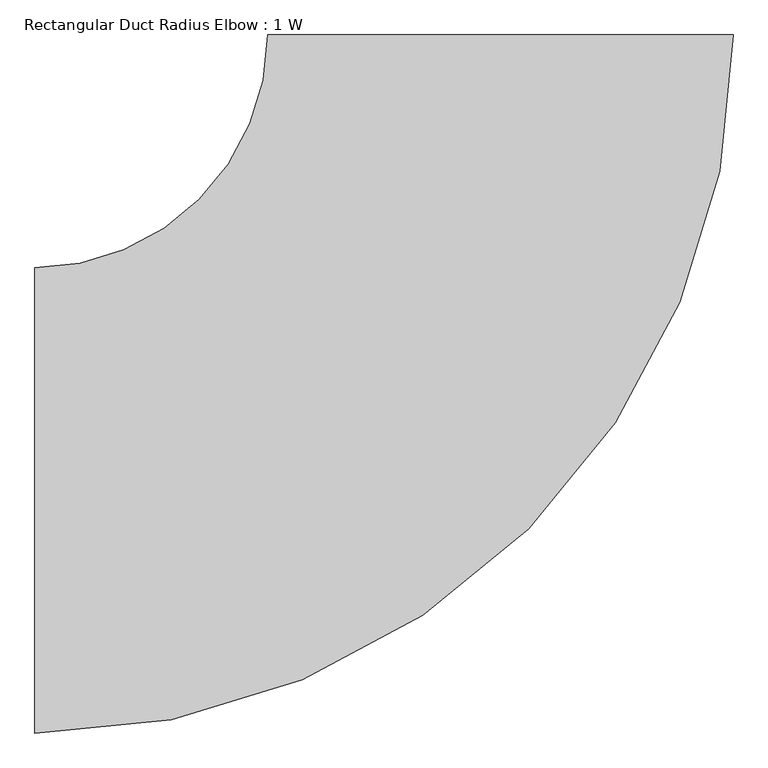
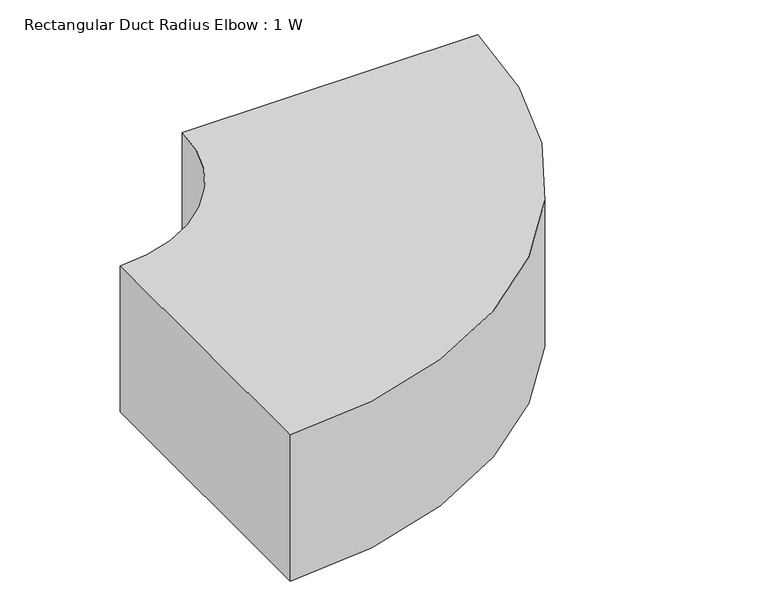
"""IFC4 building model written with IfcOpenShell, lengths in millimetres: duct fitting geometry, Rectangular Duct Radius Elbow : 1 W."""

from ifc_helpers import new_model, si_unit, point, frame, frame_2d, origin, place, context, project, spatial, polyline, circle_curve, trimmed, segment, composite_curve, outline, extrude, source, transform, mapped, element, save


def rectangular_duct_radius_elbow_1_w_6f893059(model_context):
    return source(origin(), model_context, "Body", "SweptSolid", [
        extrude(outline(composite_curve([segment(trimmed(circle_curve(frame_2d((-1066.8, 1066.8)), 1600.2), [point((533.4, 1066.8))], [point((-1066.8, -533.4))], False, "CARTESIAN"), True, "CONTINUOUS"), segment(polyline([(-1066.8, -533.4), (-1066.8, 533.4)]), True, "CONTINUOUS"), segment(trimmed(circle_curve(frame_2d((-1066.8, 1066.8)), 533.4), [point((-1066.8, 533.4))], [point((-533.4, 1066.8))], True, "CARTESIAN"), True, "CONTINUOUS"), segment(polyline([(-533.4, 1066.8), (533.4, 1066.8)]), True, "CONTINUOUS")], self_intersect=False)), frame((0.0, 0.0, -279.4), z_axis=(0.0, 0.0, 1.0), x_axis=(1.0, 0.0, 0.0)), (0.0, 0.0, 1.0), 558.8),
        extrude(outline(composite_curve([segment(trimmed(circle_curve(frame_2d((-1066.8, 1066.8)), 1600.2), [point((533.4, 1066.8))], [point((-1066.8, -533.4))], False, "CARTESIAN"), True, "CONTINUOUS"), segment(polyline([(-1066.8, -533.4), (-1066.8, 533.4)]), True, "CONTINUOUS"), segment(trimmed(circle_curve(frame_2d((-1066.8, 1066.8)), 533.4), [point((-1066.8, 533.4))], [point((-533.4, 1066.8))], True, "CARTESIAN"), True, "CONTINUOUS"), segment(polyline([(-533.4, 1066.8), (533.4, 1066.8)]), True, "CONTINUOUS")], self_intersect=False)), frame((0.0, 0.0, -279.4), z_axis=(0.0, 0.0, 1.0), x_axis=(1.0, 0.0, 0.0)), (0.0, 0.0, 1.0), 558.8),
        extrude(outline(composite_curve([segment(trimmed(circle_curve(frame_2d((-1066.8, 1066.8)), 1600.2), [point((533.4, 1066.8))], [point((-1066.8, -533.4))], False, "CARTESIAN"), True, "CONTINUOUS"), segment(polyline([(-1066.8, -533.4), (-1066.8, 533.4)]), True, "CONTINUOUS"), segment(trimmed(circle_curve(frame_2d((-1066.8, 1066.8)), 533.4), [point((-1066.8, 533.4))], [point((-533.4, 1066.8))], True, "CARTESIAN"), True, "CONTINUOUS"), segment(polyline([(-533.4, 1066.8), (533.4, 1066.8)]), True, "CONTINUOUS")], self_intersect=False)), frame((0.0, 0.0, -279.4), z_axis=(0.0, 0.0, 1.0), x_axis=(1.0, 0.0, 0.0)), (0.0, 0.0, 1.0), 558.8),
    ])


if __name__ == "__main__":
    model = new_model("IFC4")
    model_context = context("Model", 3, world=origin())
    ifc_project = project(units=[si_unit("LENGTHUNIT", "METRE", prefix="MILLI")], contexts=[model_context])
    site = spatial("IfcSite", under=ifc_project)
    building = spatial("IfcBuilding", under=site)
    placement = place(None, origin())
    rectangular_duct_radius_elbow_1_w_shape = rectangular_duct_radius_elbow_1_w_6f893059(model_context)
    element("IfcDuctFitting", 1, ObjectType="Rectangular Duct Radius Elbow : 1 W", at=placement, inside=building, context=model_context, shape_type="MappedRepresentation", body=[
        mapped(rectangular_duct_radius_elbow_1_w_shape, transform((0.0, 0.0, 0.0), x_axis=(1.0, 0.0, 0.0), y_axis=(0.0, 1.0, 0.0), z_axis=(0.0, 0.0, 1.0))),
    ])
    save(model, "model.ifc")
